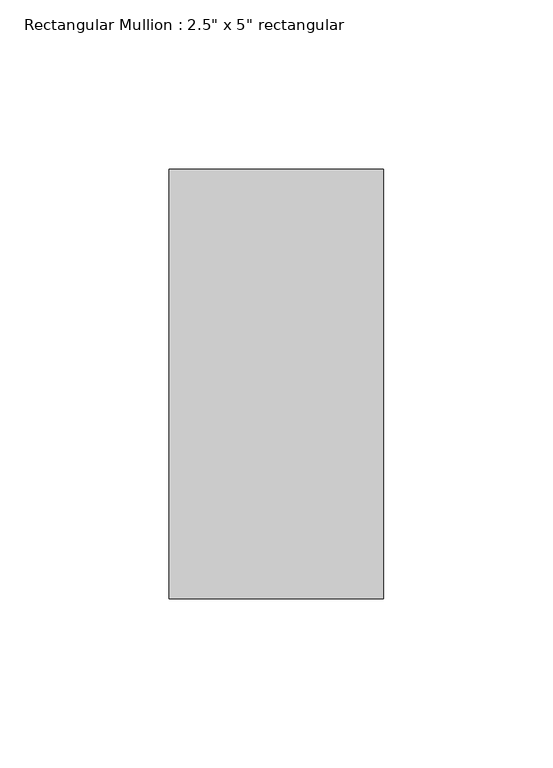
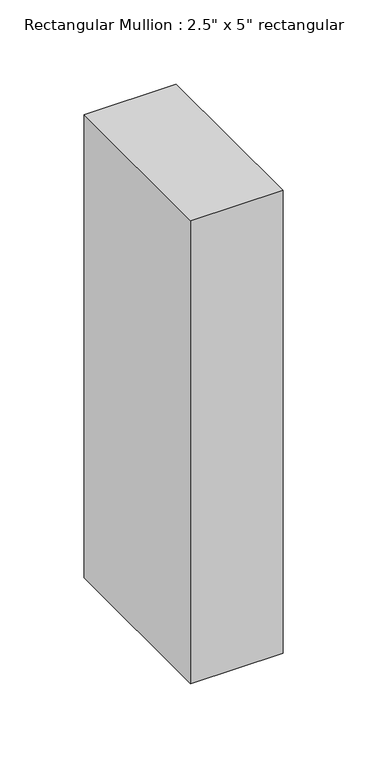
"""IFC4 building model written with IfcOpenShell, lengths in millimetres: member geometry."""

import ifcopenshell
import ifcopenshell.guid

model = None  # the IFC model being written
_history = None  # IfcOwnerHistory: only IFC2X3 demands one
_inside = {}  # id of a spatial element -> (the spatial element, [elements in it])
_under = {}  # id of a project, library or spatial element -> (it, [spatial elements below it])
_declared = {}  # id of a project -> (the project, [libraries it declares])
_typed = {}  # id of a type object -> (the type object, [elements of that type])
_made_of = {}  # id of a material, layer set ... -> (it, [elements and type objects made of it])


def new_model(schema):
    """Start an empty IFC model of exactly this schema.

    Asked for "IFC4X3", IfcOpenShell would pick the latest addendum, in which some entities
    have other attributes; the version numbers below select the first issue.
    IFC2X3 requires an IfcOwnerHistory on every rooted entity: one is made here for all.
    """
    global model, _history
    if schema == "IFC4X3":
        model = ifcopenshell.file(schema_version=(4, 3, 0, 0))
    else:
        model = ifcopenshell.file(schema=schema)
    _inside.clear()
    _under.clear()
    _declared.clear()
    _typed.clear()
    _made_of.clear()
    _history = None
    if model.schema == "IFC2X3":
        org = make("IfcOrganization", Name="unknown")
        user = make(
            "IfcPersonAndOrganization",
            ThePerson=make("IfcPerson", FamilyName="unknown"),
            TheOrganization=org,
        )
        app = make(
            "IfcApplication",
            ApplicationDeveloper=org,
            Version="unknown",
            ApplicationFullName="unknown",
            ApplicationIdentifier="unknown",
        )
        _history = make(
            "IfcOwnerHistory",
            OwningUser=user,
            OwningApplication=app,
            ChangeAction="ADDED",
            CreationDate=0,
        )
    return model


def make(cls, **values):
    """One entity of the class cls with the attributes given. An attribute that is None is left unset."""
    return model.create_entity(
        cls, **{name: value for name, value in values.items() if value is not None}
    )


def rooted(cls, **values):
    """An entity with a GlobalId (a new one), such as an element, a storey or a relation."""
    return make(cls, GlobalId=ifcopenshell.guid.new(), OwnerHistory=_history, **values)


def si_unit(unit_type, name, prefix=None):
    """IfcSIUnit, for example si_unit("LENGTHUNIT", "METRE", prefix="MILLI")."""
    return make("IfcSIUnit", UnitType=unit_type, Prefix=prefix, Name=name)


def assignment(units):
    """IfcUnitAssignment: the units of a project."""
    return None if units is None else make("IfcUnitAssignment", Units=units)


def point(xyz):
    """IfcCartesianPoint."""
    return None if xyz is None else make("IfcCartesianPoint", Coordinates=xyz)


def direction(xyz):
    """IfcDirection."""
    return None if xyz is None else make("IfcDirection", DirectionRatios=xyz)


def frame(location, z_axis=None, x_axis=None):
    """IfcAxis2Placement3D, a coordinate frame: its origin and axes. An axis left out is left unset."""
    return make(
        "IfcAxis2Placement3D",
        Location=point(location),
        Axis=direction(z_axis),
        RefDirection=direction(x_axis),
    )


def origin():
    """The frame at (0, 0, 0) with its axes left unset."""
    return frame((0.0, 0.0, 0.0))


def place(relative_to, where):
    """IfcLocalPlacement: puts the frame where relative to a parent placement (None: the world)."""
    return make(
        "IfcLocalPlacement", PlacementRelTo=relative_to, RelativePlacement=where
    )


def context(
    kind, dimensions, precision=None, world=None, true_north=None, identifier=None
):
    """IfcGeometricRepresentationContext, for example the 3D "Model" context."""
    return make(
        "IfcGeometricRepresentationContext",
        ContextIdentifier=identifier,
        ContextType=kind,
        CoordinateSpaceDimension=dimensions,
        Precision=precision,
        WorldCoordinateSystem=world,
        TrueNorth=true_north,
    )


def project(units=None, contexts=None):
    """IfcProject with its units and contexts."""
    return rooted(
        "IfcProject",
        Name="project",
        RepresentationContexts=contexts,
        UnitsInContext=assignment(units),
    )


def spatial(cls, under=None, at=None, **own):
    """A site, building, storey or space (cls), placed at a placement, below another one or the project."""
    s = rooted(cls, ObjectPlacement=at, **own)
    if under is not None:
        _under.setdefault(under.id(), (under, []))[1].append(s)
    return s


def polyline(points):
    """IfcPolyline through the points."""
    return make("IfcPolyline", Points=[point(p) for p in points])


def outline(outer, holes=None, kind="AREA"):
    """IfcArbitraryClosedProfileDef: a profile drawn as a closed curve; with holes, ...WithVoids."""
    if holes is None:
        return make("IfcArbitraryClosedProfileDef", ProfileType=kind, OuterCurve=outer)
    return make(
        "IfcArbitraryProfileDefWithVoids",
        ProfileType=kind,
        OuterCurve=outer,
        InnerCurves=holes,
    )


def extrude(swept, where, along, depth):
    """IfcExtrudedAreaSolid: the profile swept, set in the frame where, extruded along a direction by depth."""
    return make(
        "IfcExtrudedAreaSolid",
        SweptArea=swept,
        Position=where,
        ExtrudedDirection=direction(along),
        Depth=depth,
    )


def shape(context_of_items, identifier, shape_type, items):
    """IfcShapeRepresentation: the items that make up one representation, for example the "Body"."""
    return make(
        "IfcShapeRepresentation",
        ContextOfItems=context_of_items,
        RepresentationIdentifier=identifier,
        RepresentationType=shape_type,
        Items=items,
    )


def source(mapping_origin, context_of_items, identifier, shape_type, items):
    """IfcRepresentationMap: a shape defined once, which mapped items show again and again."""
    return make(
        "IfcRepresentationMap",
        MappingOrigin=mapping_origin,
        MappedRepresentation=shape(context_of_items, identifier, shape_type, items),
    )


def transform(
    local_origin,
    x_axis=None,
    y_axis=None,
    z_axis=None,
    scale=None,
    scale2=None,
    scale3=None,
    uniform=True,
):
    """IfcCartesianTransformationOperator3D, or its non-uniform kind. x_axis, y_axis, z_axis: its Axis1, 2, 3."""
    if uniform:
        return make(
            "IfcCartesianTransformationOperator3D",
            Axis1=direction(x_axis),
            Axis2=direction(y_axis),
            LocalOrigin=point(local_origin),
            Scale=scale,
            Axis3=direction(z_axis),
        )
    return make(
        "IfcCartesianTransformationOperator3DnonUniform",
        Axis1=direction(x_axis),
        Axis2=direction(y_axis),
        LocalOrigin=point(local_origin),
        Scale=scale,
        Axis3=direction(z_axis),
        Scale2=scale2,
        Scale3=scale3,
    )


def mapped(mapping_source, mapping_target):
    """IfcMappedItem: shows the shape of a source again, moved by a transform."""
    return make(
        "IfcMappedItem", MappingSource=mapping_source, MappingTarget=mapping_target
    )


def made_of(thing, what):
    """Note that an element or type object is made of a material, layer set ...; save() writes the relation."""
    if what is not None:
        _made_of.setdefault(what.id(), (what, []))[1].append(thing)
    return thing


def element(
    cls,
    number,
    at=None,
    inside=None,
    cuts=None,
    type_object=None,
    material=None,
    context=None,
    identifier="Body",
    shape_type=None,
    held_by="IfcProductDefinitionShape",
    body=None,
    shapes=None,
    **own,
):
    """One element of the class cls, such as IfcWall. Its Tag is "e" and its number.

    at: its placement. inside: the storey or other place that contains it. cuts: it is an
    opening in that element (IfcRelVoidsElement). A single representation is given by context,
    identifier, shape_type and body (its items); several are given by shapes. held_by: the class
    of the entity that holds the representations. save() writes the other relations.
    """
    e = rooted(cls, Tag="e%d" % number, ObjectPlacement=at, **own)
    if body is not None:
        shapes = [shape(context, identifier, shape_type, body)]
    if shapes is not None:
        e.Representation = make(held_by, Representations=shapes)
    if inside is not None:
        _inside.setdefault(inside.id(), (inside, []))[1].append(e)
    if cuts is not None:
        rooted(
            "IfcRelVoidsElement", RelatingBuildingElement=cuts, RelatedOpeningElement=e
        )
    if type_object is not None:
        _typed.setdefault(type_object.id(), (type_object, []))[1].append(e)
    return made_of(e, material)


def aggregate(whole, parts):
    """IfcRelAggregates: a whole, such as a stair, and the parts it consists of."""
    return rooted("IfcRelAggregates", RelatingObject=whole, RelatedObjects=parts)


def save(model, path):
    """Write the relations noted so far, then the file.

    IfcRelAggregates (storeys below a building ...), IfcRelContainedInSpatialStructure (elements
    in a storey), IfcRelDefinesByType, IfcRelAssociatesMaterial and IfcRelDeclares: one each for
    every whole, place, type object, material and project.
    """
    for whole, parts in _under.values():
        aggregate(whole, parts)
    for where, things in _inside.values():
        rooted(
            "IfcRelContainedInSpatialStructure",
            RelatedElements=things,
            RelatingStructure=where,
        )
    for kind, things in _typed.values():
        rooted("IfcRelDefinesByType", RelatedObjects=things, RelatingType=kind)
    for what, things in _made_of.values():
        rooted("IfcRelAssociatesMaterial", RelatedObjects=things, RelatingMaterial=what)
    for by, libraries in _declared.values():
        rooted("IfcRelDeclares", RelatingContext=by, RelatedDefinitions=libraries)
    model.write(path)


def member_80bb9b3a(model_context):
    return source(origin(), model_context, "Body", "SweptSolid", [
        extrude(outline(polyline([(31.75, 63.5), (31.75, -63.5), (-31.75, -63.5), (-31.75, 63.5), (31.75, 63.5)])), frame((0.0, 0.0, -336.55), z_axis=(0.0, 0.0, 1.0), x_axis=(1.0, 0.0, 0.0)), (0.0, 0.0, 1.0), 336.55),
    ])


if __name__ == "__main__":
    model = new_model("IFC4")
    model_context = context("Model", 3, world=origin())
    ifc_project = project(units=[si_unit("LENGTHUNIT", "METRE", prefix="MILLI")], contexts=[model_context])
    site = spatial("IfcSite", under=ifc_project)
    building = spatial("IfcBuilding", under=site)
    placement = place(None, origin())
    member_shape = member_80bb9b3a(model_context)
    element("IfcMember", 1, ObjectType="Rectangular Mullion : 2.5\" x 5\" rectangular", at=placement, inside=building, context=model_context, shape_type="MappedRepresentation", body=[
        mapped(member_shape, transform((0.0, 0.0, 0.0), x_axis=(1.0, 0.0, 0.0), y_axis=(0.0, 1.0, 0.0), z_axis=(0.0, 0.0, 1.0))),
    ])
    save(model, "model.ifc")
